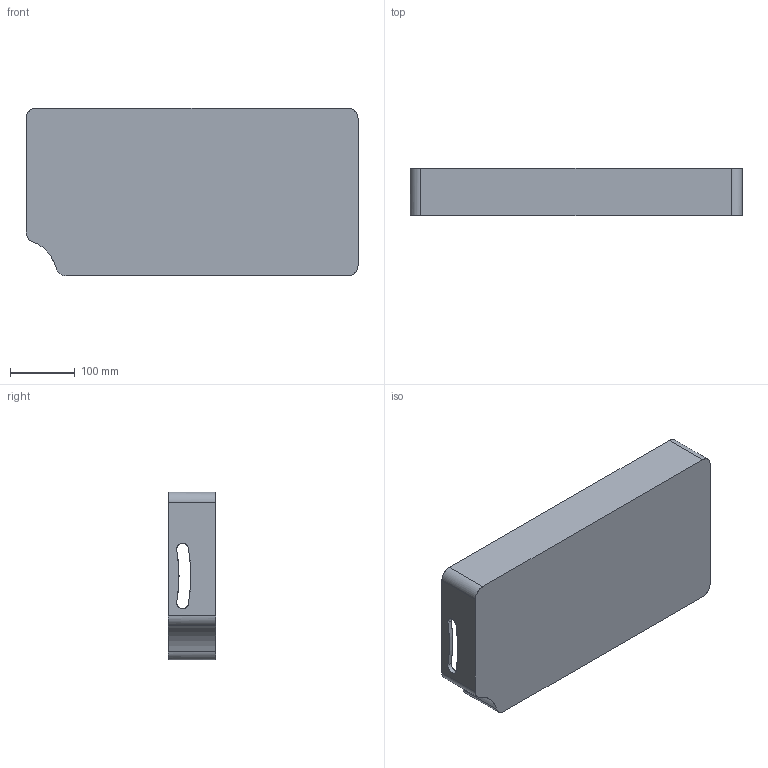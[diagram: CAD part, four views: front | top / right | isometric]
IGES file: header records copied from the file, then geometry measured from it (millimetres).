
Start section: SolidWorks IGES file using analytic representation for surfaces
Global section: file name: C:\Users\cchaiyont\My Project\SARTKII\SARTKII CAD\SARTK PID\0450G2 Top Tray 12-4-2019.IGS; native system: SolidWorks 2016; preprocessor: SolidWorks 2016; author: cchaiyont; date: 200204.194218; units: inch
Bounding box: 511.13 x 72.82 x 258.5 mm (x, y, z)
Surface area: 454041.9 mm2 (no closed solid volume)
Topology: 0 solids, 0 shells, 51 faces, 641 edges, 641 vertices
Faces by surface type: bspline 38, revolution 13
